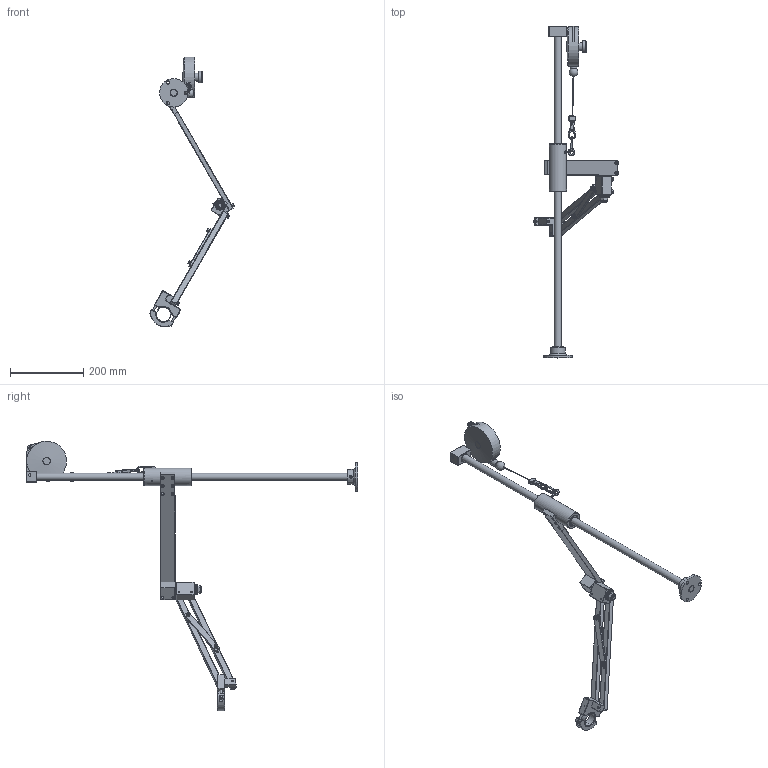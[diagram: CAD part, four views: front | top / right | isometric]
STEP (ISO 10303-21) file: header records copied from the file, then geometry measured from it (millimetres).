
FILE_DESCRIPTION( ( 'Unknown' ), '1' );
FILE_NAME( 'D:/dogabe/Industrie/Industrie 2005/05-35-2785 DOGA/4-1200274_bras BA 25 R_600_3D/4-1200274_BA 25 R_600.stp', 'Unknown', ( 'Unknown' ), ( 'Unknown' ), 'PSStep 14.0', 'Unknown', ' ' );
FILE_SCHEMA( ( 'AUTOMOTIVE_DESIGN { 1 0 10303 214 1 1 1 1 }' ) );
Length unit declared in the file: millimetre
Products named in the file (51): Asm Mat; Vis M8x10 à bout plat; Pied de BA25; Mat Ø20 BA25; Asm arrière bras rallonge 600; Fourreau BA25; Piton M5; Pivot 2; Axe 16; Plaque support BA25R rallonge 600; FHC M5x20; FHC M5x20-oa1; FHC M5x20-oa2; FHC M5x20-oa3; CHC M6x30; CHC M6x30-oa4; Douille KB20; Douille KB20-oa5; Pince BA25R; CHC M6x45 fileté sous tete; CHC M6x45 fileté sous tete-oa0; Placement'; pince BA25R; Collier; Asm avant bras -22.5 rallonge 600; Pivot 1; 16 Z; Carré inférieur rallonge 600; Carré supérieur rallonge 600; H M12 Nyl; 12 M; 12 M-oa6; Règle immobilisatrice; Butée à aiguilles AXK1226; Roulement à aiguilles HK1612; Roulement à aiguilles HK1612-oa7; CHC M6x20; CHC M6x20-oa8; CHC M6x30-oa9; CHC M6x30-oa10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
Assembly tree (50 placements, depth 3):
  Assem1
    Cable
    Pince BA25R
      CHC M6x45 fileté sous tete
      CHC M6x45 fileté sous tete-oa0
      Placement'
      pince BA25R
      Collier
    Asm Mat
      Vis M8x10 à bout plat
      Pied de BA25
      Mat Ø20 BA25
    Asm Equilibreur
      Bague
      CHC M8x35
      Vis HC M4x8 à téton
      Entretoise
      Equilibreur 3-5 Kg
      Support equilibreur
    Asm arrière bras rallonge 600
      Fourreau BA25
      Piton M5
      Pivot 2
      Axe 16
      Plaque support BA25R rallonge 600
      FHC M5x20
      FHC M5x20-oa1
      FHC M5x20-oa2
      FHC M5x20-oa3
      CHC M6x30
      CHC M6x30-oa4
      Douille KB20
      Douille KB20-oa5
    Asm avant bras -22.5 rallonge 600
      Pivot 1
      16 Z
      Carré inférieur rallonge 600
      Carré supérieur rallonge 600
      H M12 Nyl
      12 M
      12 M-oa6
      Règle immobilisatrice
      Butée à aiguilles AXK1226
      Roulement à aiguilles HK1612
      Roulement à aiguilles HK1612-oa7
      CHC M6x20
      CHC M6x20-oa8
      CHC M6x30-oa9
      CHC M6x30-oa10
      CHC M6x30-oa11
      CHC M6x30-oa12
Bounding box: 232.78 x 908 x 737.32 mm (x, y, z)
Volume: 1437932.9 mm3; surface area: 344800.8 mm2
Topology: 45 solids, 45 shells, 1001 faces, 2290 edges, 1419 vertices
Faces by surface type: plane 584, cylinder 304, cone 69, torus 33, sphere 8, bspline 3
Full cylindrical faces by diameter (mm): 2 x1, 2.5 x3, 3.3 x1, 4 x1, 4.2 x6, 4.5 x1, 5 x23, 5.8 x10, 6 x18, 6.5 x3, 6.8 x2, 7 x1, 7.8 x1, 8 x3, 8.5 x3, 9 x1, 10 x11, 10.2 x1, 12 x4, 13 x2, 16 x5, 17.785 x1, 19 x1, 20 x5, 21 x1, 22 x4, 23 x2, 26 x1, 27 x2, 30 x1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
Entity records: 37137 total; most frequent: CARTESIAN_POINT 7060, DIRECTION 4503, ORIENTED_EDGE 3916, EDGE_CURVE 1958, AXIS2_PLACEMENT_3D 1693, EDGE_LOOP 1384, VERTEX_POINT 1321, FACE_OUTER_BOUND 1152
